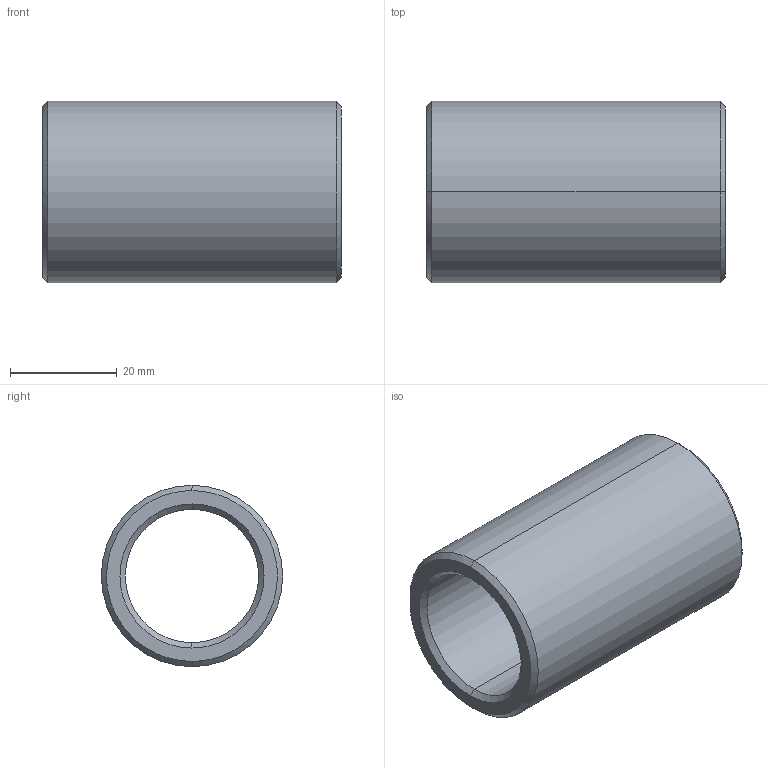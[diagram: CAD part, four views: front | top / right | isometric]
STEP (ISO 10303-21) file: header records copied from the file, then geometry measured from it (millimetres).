
FILE_DESCRIPTION(('CATIA V5 STEP Exchange'),'2;1');
FILE_NAME('C:\Users\Utente\Desktop\IO LAVORO\3D X SITO CF\X SITO\PLASTICA\352\352-25X56.stp','2021-04-14T15:29:02+00:00',('none'),('none'),'CATIA Version 5 Release 20 GA (IN-10)','CATIA V5 STEP AP203','none');
FILE_SCHEMA(('CONFIG_CONTROL_DESIGN'));
Length unit declared in the file: millimetre
Products named in the file (1): 352-25X56
Bounding box: 56 x 34 x 34 mm (x, y, z)
Volume: 23192.4 mm3; surface area: 11008.2 mm2
Topology: 1 solids, 1 shells, 14 faces, 44 edges, 32 vertices
Faces by surface type: cone 6, cylinder 4, plane 2, torus 2
Entity records: 634 total; most frequent: CARTESIAN_POINT 203, ORIENTED_EDGE 88, DIRECTION 64, EDGE_CURVE 44, AXIS2_PLACEMENT_3D 41, VERTEX_POINT 32, CIRCLE 26, EDGE_LOOP 16
